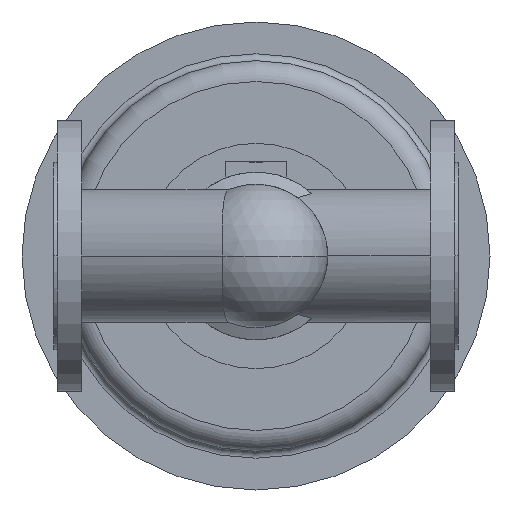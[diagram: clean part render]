
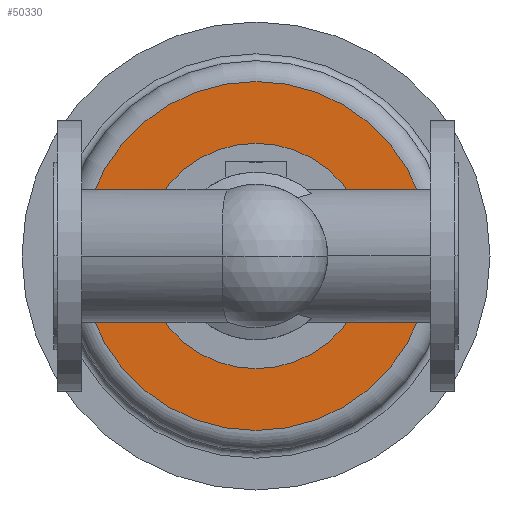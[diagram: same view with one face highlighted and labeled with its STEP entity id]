
A CAD part, front view. The second image highlights one B-rep face of the part: STEP entity #50330.
In plain terms, the highlighted planar face has unit normal (0, -1, 0).
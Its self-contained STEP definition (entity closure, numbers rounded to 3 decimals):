
#49810=CARTESIAN_POINT('',(80.,715.2,0.));
#49820=VERTEX_POINT('',#49810);
#49850=CARTESIAN_POINT('',(175.,715.2,0.));
#49860=DIRECTION('',(0.,1.,0.));
#49870=DIRECTION('',(1.,0.,0.));
#49880=AXIS2_PLACEMENT_3D('',#49850,#49860,#49870);
#49890=CIRCLE('',#49880,95.);
#49900=CARTESIAN_POINT('',(270.,715.2,0.));
#49910=VERTEX_POINT('',#49900);
#49920=EDGE_CURVE('',#49820,#49910,#49890,.T.);
#50040=CARTESIAN_POINT('',(298.,715.2,0.));
#50050=DIRECTION('',(0.,-1.,0.));
#50060=DIRECTION('',(-1.,0.,0.));
#50070=AXIS2_PLACEMENT_3D('',#50040,#50050,#50060);
#50080=PLANE('',#50070);
#50090=CARTESIAN_POINT('',(175.,715.2,0.));
#50100=DIRECTION('',(0.,1.,0.));
#50110=DIRECTION('',(1.,0.,0.));
#50120=AXIS2_PLACEMENT_3D('',#50090,#50100,#50110);
#50130=CIRCLE('',#50120,151.);
#50140=CARTESIAN_POINT('',(175.,715.2,-151.));
#50150=VERTEX_POINT('',#50140);
#50160=CARTESIAN_POINT('',(24.,715.2,0.));
#50170=VERTEX_POINT('',#50160);
#50180=EDGE_CURVE('',#50150,#50170,#50130,.T.);
#50190=ORIENTED_EDGE('',*,*,#50180,.F.);
#50200=CARTESIAN_POINT('',(326.,715.2,0.));
#50210=VERTEX_POINT('',#50200);
#50220=EDGE_CURVE('',#50170,#50210,#50130,.T.);
#50230=ORIENTED_EDGE('',*,*,#50220,.F.);
#50240=EDGE_CURVE('',#50210,#50150,#50130,.T.);
#50250=ORIENTED_EDGE('',*,*,#50240,.F.);
#50260=EDGE_LOOP('',(#50250,#50230,#50190));
#50270=FACE_OUTER_BOUND('',#50260,.T.);
#50280=EDGE_CURVE('',#49910,#49820,#49890,.T.);
#50290=ORIENTED_EDGE('',*,*,#50280,.T.);
#50300=ORIENTED_EDGE('',*,*,#49920,.T.);
#50310=EDGE_LOOP('',(#50300,#50290));
#50320=FACE_BOUND('',#50310,.T.);
#50330=ADVANCED_FACE('',(#50270,#50320),#50080,.T.);
